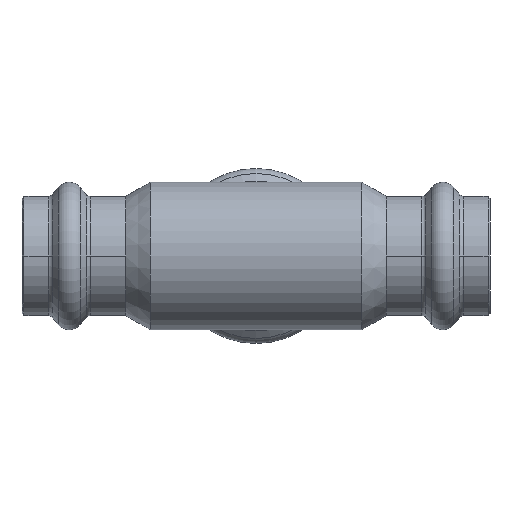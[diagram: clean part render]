
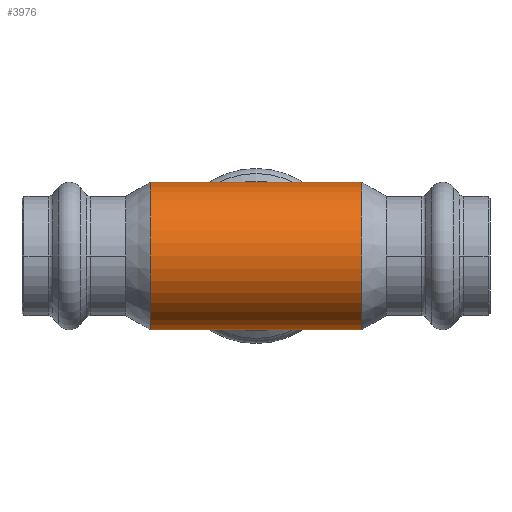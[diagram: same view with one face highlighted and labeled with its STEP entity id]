
A CAD part, front view. The second image highlights one B-rep face of the part: STEP entity #3976.
In plain terms, the highlighted cylindrical face has radius 15.6 mm (diameter 31.2 mm), a partial arc.
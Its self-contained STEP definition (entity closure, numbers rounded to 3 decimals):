
#48 = EDGE_CURVE ( 'NONE', #4583, #2492, #3572, .T. ) ;
#57 = CARTESIAN_POINT ( 'NONE',  ( -58.611, 0., -15.6 ) ) ;
#487 = CARTESIAN_POINT ( 'NONE',  ( -22.376, 0., 15.6 ) ) ;
#693 = VECTOR ( 'NONE', #3191, 1000. ) ;
#808 = CARTESIAN_POINT ( 'NONE',  ( -22.376, 0., -15.6 ) ) ;
#1034 = FACE_OUTER_BOUND ( 'NONE', #2613, .T. ) ;
#1117 = ORIENTED_EDGE ( 'NONE', *, *, #3711, .T. ) ;
#1164 = DIRECTION ( 'NONE',  ( 0., 0., 1. ) ) ;
#1288 = CARTESIAN_POINT ( 'NONE',  ( -58.611, 0., 0. ) ) ;
#1416 = DIRECTION ( 'NONE',  ( -1., 0., 0. ) ) ;
#1459 = EDGE_CURVE ( 'NONE', #4270, #4583, #3456, .T. ) ;
#1488 = ORIENTED_EDGE ( 'NONE', *, *, #3420, .F. ) ;
#1638 = AXIS2_PLACEMENT_3D ( 'NONE', #1288, #1416, #1164 ) ;
#1656 = DIRECTION ( 'NONE',  ( 1., 0., 0. ) ) ;
#1671 = CARTESIAN_POINT ( 'NONE',  ( 22.376, 0., 0. ) ) ;
#1703 = ORIENTED_EDGE ( 'NONE', *, *, #1459, .F. ) ;
#1741 = DIRECTION ( 'NONE',  ( 0., 0., 1. ) ) ;
#1850 = CARTESIAN_POINT ( 'NONE',  ( -22.376, 0., 0. ) ) ;
#2052 = CARTESIAN_POINT ( 'NONE',  ( 22.376, 0., -15.6 ) ) ;
#2185 = VERTEX_POINT ( 'NONE', #2609 ) ;
#2236 = CYLINDRICAL_SURFACE ( 'NONE', #1638, 15.6 ) ;
#2248 = DIRECTION ( 'NONE',  ( -1., 0., 0. ) ) ;
#2264 = CARTESIAN_POINT ( 'NONE',  ( -58.611, 0., 15.6 ) ) ;
#2302 = ORIENTED_EDGE ( 'NONE', *, *, #48, .F. ) ;
#2492 = VERTEX_POINT ( 'NONE', #487 ) ;
#2609 = CARTESIAN_POINT ( 'NONE',  ( 22.376, 0., 15.6 ) ) ;
#2613 = EDGE_LOOP ( 'NONE', ( #1703, #1488, #1117, #2302 ) ) ;
#2899 = AXIS2_PLACEMENT_3D ( 'NONE', #1671, #1656, #1741 ) ;
#3191 = DIRECTION ( 'NONE',  ( -1., 0., 0. ) ) ;
#3420 = EDGE_CURVE ( 'NONE', #2185, #4270, #4919, .T. ) ;
#3456 = LINE ( 'NONE', #57, #693 ) ;
#3572 = CIRCLE ( 'NONE', #4146, 15.6 ) ;
#3711 = EDGE_CURVE ( 'NONE', #2185, #2492, #4835, .T. ) ;
#3976 = ADVANCED_FACE ( 'NONE', ( #1034 ), #2236, .T. ) ;
#4060 = DIRECTION ( 'NONE',  ( 0., 0., -1. ) ) ;
#4146 = AXIS2_PLACEMENT_3D ( 'NONE', #1850, #4889, #4060 ) ;
#4270 = VERTEX_POINT ( 'NONE', #2052 ) ;
#4583 = VERTEX_POINT ( 'NONE', #808 ) ;
#4829 = VECTOR ( 'NONE', #2248, 1000. ) ;
#4835 = LINE ( 'NONE', #2264, #4829 ) ;
#4889 = DIRECTION ( 'NONE',  ( -1., 0., 0. ) ) ;
#4919 = CIRCLE ( 'NONE', #2899, 15.6 ) ;
